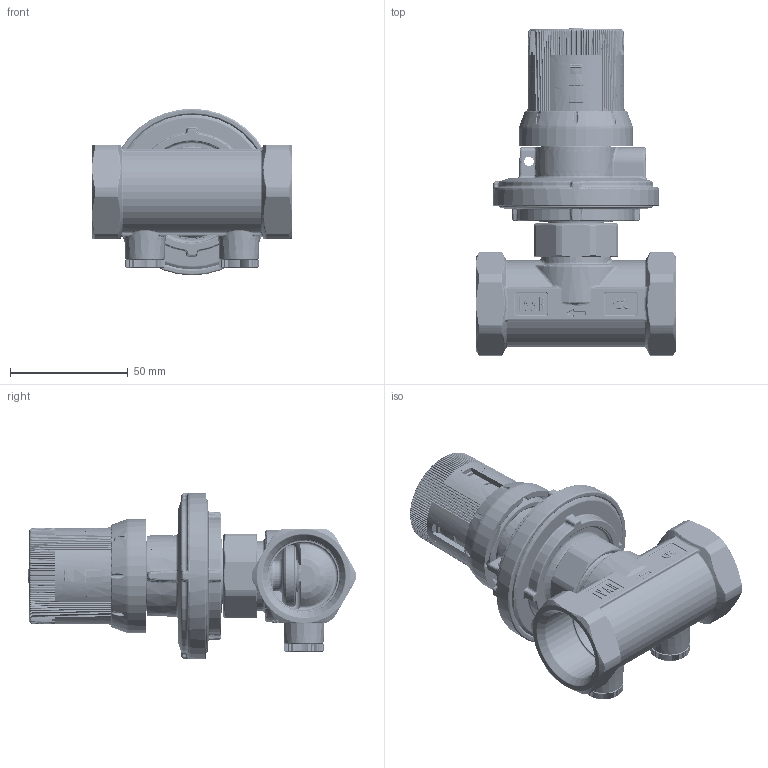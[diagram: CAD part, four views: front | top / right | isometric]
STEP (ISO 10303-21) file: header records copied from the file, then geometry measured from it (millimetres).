
FILE_DESCRIPTION(/* description */ (''),/* implementation_level */ '2;1');
FILE_NAME(/* name */ 'F:\Артём\00000\Работа удаленка\130\VT.041.G.30006.stp',/* time_stamp */ '2021-04-05T15:41:04+03:00',/* author */ ('almis'),/* organization */ (''),/* preprocessor_version */ 'ST-DEVELOPER v18',/* originating_system */ 'Autodesk Inventor 2020',/* authorisation */ '');
FILE_SCHEMA (('AUTOMOTIVE_DESIGN { 1 0 10303 214 3 1 1 }'));
Length unit declared in the file: millimetre
Products named in the file (1): 550117 differenziale DN25  50-300
Bounding box: 85 x 139.19 x 70.89 mm (x, y, z)
Volume: 155266.2 mm3; surface area: 109251 mm2
Topology: 2 solids, 22 shells, 10120 faces, 26807 edges, 16703 vertices
Faces by surface type: bspline 3661, cylinder 2311, plane 2132, torus 926, cone 780, sphere 310
Full cylindrical faces by diameter (mm): 3.5 x2, 4 x1, 4.25 x1, 5 x4, 6 x3, 6.2 x2, 6.5 x1, 6.8 x1, 7 x6, 7.2 x1, 7.8 x2, 8 x1, 8.6 x1, 9.4 x3, 9.5 x4, 10 x1, 10.5 x3, 10.6 x1, 11.5 x4, 11.8 x1, 12 x3, 13 x2, 14 x2, 14.1 x1, 14.2 x1, 15 x2, 15.2 x2, 16 x2, 16.8 x1, 17 x2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
Entity records: 427012 total; most frequent: CARTESIAN_POINT 188165, ORIENTED_EDGE 52376, DIRECTION 43672, EDGE_CURVE 26188, AXIS2_PLACEMENT_3D 17757, VERTEX_POINT 16552, EDGE_LOOP 10436, FACE_OUTER_BOUND 9969
